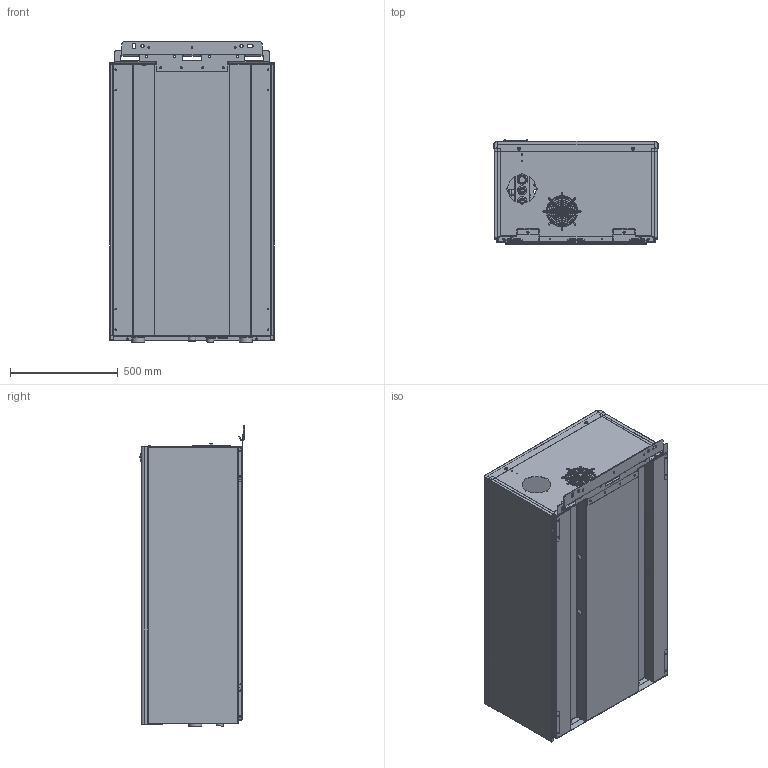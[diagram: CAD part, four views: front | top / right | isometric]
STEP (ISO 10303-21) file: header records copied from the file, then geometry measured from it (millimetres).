
FILE_DESCRIPTION(/* description */ ('Unknown'),/* implementation_level */ '2;1');
FILE_NAME(/* name */ 'Alkon 140 EXT',/* time_stamp */ '2020-11-03T15:12:14+01:00',/* author */ ('Unknown'),/* organization */ ('Unknown'),/* preprocessor_version */ 'ST-DEVELOPER v16.7',/* originating_system */ 'Solid Edge',/* authorisation */ 'Unknown');
FILE_SCHEMA (('AUTOMOTIVE_DESIGN {1 0 10303 214 3 1 1}'));
Length unit declared in the file: millimetre
Products named in the file (71): 41010942; 00214817; 00214818; TAP1250C; GRZ6040C; 00262196; 00310748-1; 00282755; 00282755-2_oa_0; tubo 1; tubo 2; 00282755_394_622_Saldatura d'angolo 9_oa_1; girello1-1-4; 00282755-7; 00282755_394_622_Saldatura d'angolo 9_oa_2; 00282755_394_622_Saldatura d'angolo 9_oa_3; 00282755-12_oa_4; 00282755-15; 00282755-13; 00282755_394_622_Saldatura d'angolo 9_oa_5; 00282755_394_622_Saldatura d'angolo 9_oa_6; CTD0400C; nip0150c; 00261632; 00372234_oa_7; RON0200C; 00263580_oa_8; 00263580_oa_9; 00282820_oa_10; 00261486; GRZ6020C; CAL0200C; 00261158; VIT0530C; 00251429; 00250808; 00251975; PRN0120C; 00214816_oa_11; inserto_M5_H=12,5_aperto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
Assembly tree (96 placements, depth 3):
  41010942
    00214817
      00214817
    00214818
      00214818
    TAP1250C
    GRZ6040C
    00262196  x2
    00310748-1
    00282755  x2
      00282755-2_oa_0
      tubo 1
      tubo 2
      girello1-1-4
      00282755-7
      00282755-12_oa_4
      00282755-15
      00282755-13
    CTD0400C
    nip0150c
    00261632  x8
    00372234_oa_7
    RON0200C  x2
    00263580_oa_8
    00263580_oa_9
    00282820_oa_10
    00261486  x2
    GRZ6020C
    CAL0200C
    00261158  x2
    VIT0530C  x2
    00251429
    00250808
    00251975
    PRN0120C  x2
    00214816_oa_11
      inserto_M5_H=12,5_aperto  x2
      00214036-3
      00214816
    00214810
      00214810
      inserto_ESAG_M5_H=10_aperto  x2
    00214819
      00214819
      inserto M3  x2
    00214808
    00214807
    00214811
    00264989_oa_15
    00263583  x4
    00362000
      00333487
      00262998  x2
      00263017  x2
    00372369
      00250816  x2
      00264393
      RON0600C
      VIM0024
      DAD0410C
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Bounding box: 762 x 485.2 x 1395.5 mm (x, y, z)
Volume: 6905094.2 mm3; surface area: 10040419.3 mm2
Topology: 126 solids, 126 shells, 2390 faces, 5983 edges, 3893 vertices
Faces by surface type: plane 1536, cylinder 658, cone 92, torus 62, bspline 36, sphere 6
Full cylindrical faces by diameter (mm): 2 x16, 2.459 x2, 2.5 x2, 3 x2, 3.2 x4, 3.5 x49, 3.8 x2, 4 x6, 4.134 x4, 4.2 x4, 4.3 x2, 4.8 x2, 4.917 x8, 5 x14, 5.2 x2, 5.3 x2, 5.5 x8, 6 x36, 6.5 x4, 7 x22, 8 x25, 8.2 x4, 8.4 x1, 8.5 x6, 9 x16, 10 x10, 11 x1, 12.5 x1, 12.613 x4, 13 x2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
Entity records: 56355 total; most frequent: CARTESIAN_POINT 10197, DIRECTION 8984, ORIENTED_EDGE 8318, EDGE_CURVE 4159, AXIS2_PLACEMENT_3D 3036, VERTEX_POINT 2912, LINE 2912, VECTOR 2912
